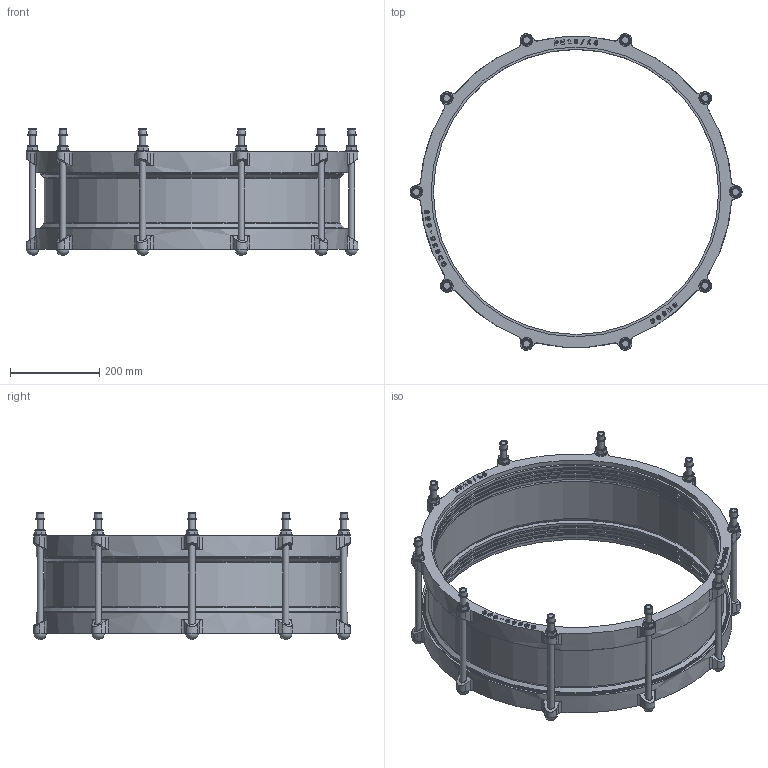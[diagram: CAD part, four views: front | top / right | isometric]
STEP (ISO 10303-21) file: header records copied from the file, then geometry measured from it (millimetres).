
FILE_DESCRIPTION(('STEP AP203'), '1');
FILE_NAME('Cîåäèíèòåëüíàÿ ìóôòà äëÿ æåñòêèõ òðóá', '', ('UNSPECIFIED'), ('UNSPECIFIED'), 'C3D Converter', 'C3D Toolkit', '');
FILE_SCHEMA(('CONFIG_CONTROL_DESIGN'));
Length unit declared in the file: millimetre
Assembly tree (45 placements, depth 2):
  (unnamed)
    (unnamed)
    (unnamed)  x10
    (unnamed)  x10
    (unnamed)  x10
    (unnamed)  x10
    (unnamed)
    (unnamed)
    (unnamed)  x2
Bounding box: 745 x 709.93 x 285.4 mm (x, y, z)
Volume: 8041963 mm3; surface area: 2019559 mm2
Topology: 49 solids, 49 shells, 1122 faces, 2794 edges, 1841 vertices
Faces by surface type: extrusion 433, plane 386, cylinder 189, cone 76, torus 28, sphere 10
Full cylindrical faces by diameter (mm): 14 x30, 15 x10, 16 x20, 16.8 x10, 19.6 x10, 25.619 x1, 28 x10, 640 x8, 645 x6, 650 x3, 657 x2, 664 x3, 681.5 x2, 685 x4, 699 x2
Entity records: 41045 total; most frequent: CARTESIAN_POINT 15998, ORIENTED_EDGE 4346, DIRECTION 2699, EDGE_CURVE 2173, VERTEX_POINT 1492, B_SPLINE_CURVE_WITH_KNOTS 1429, VECTOR 1345, EDGE_LOOP 1019
